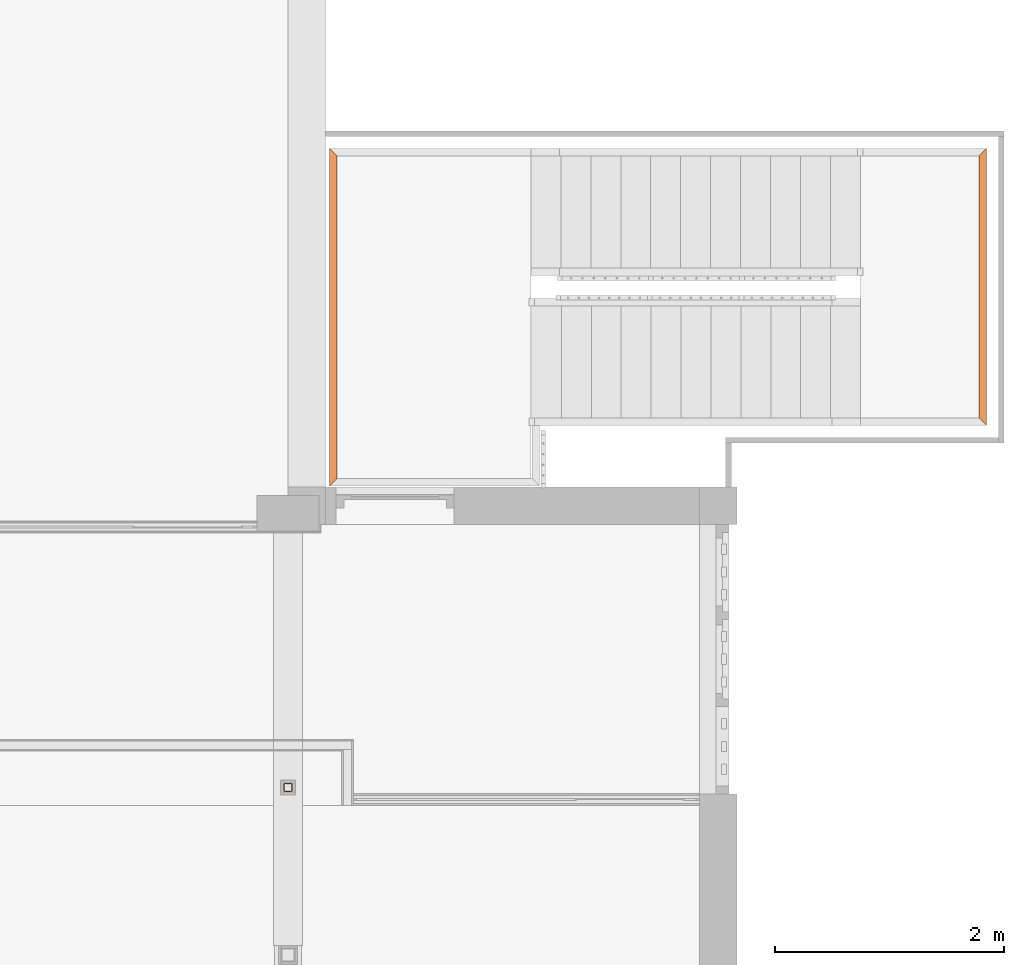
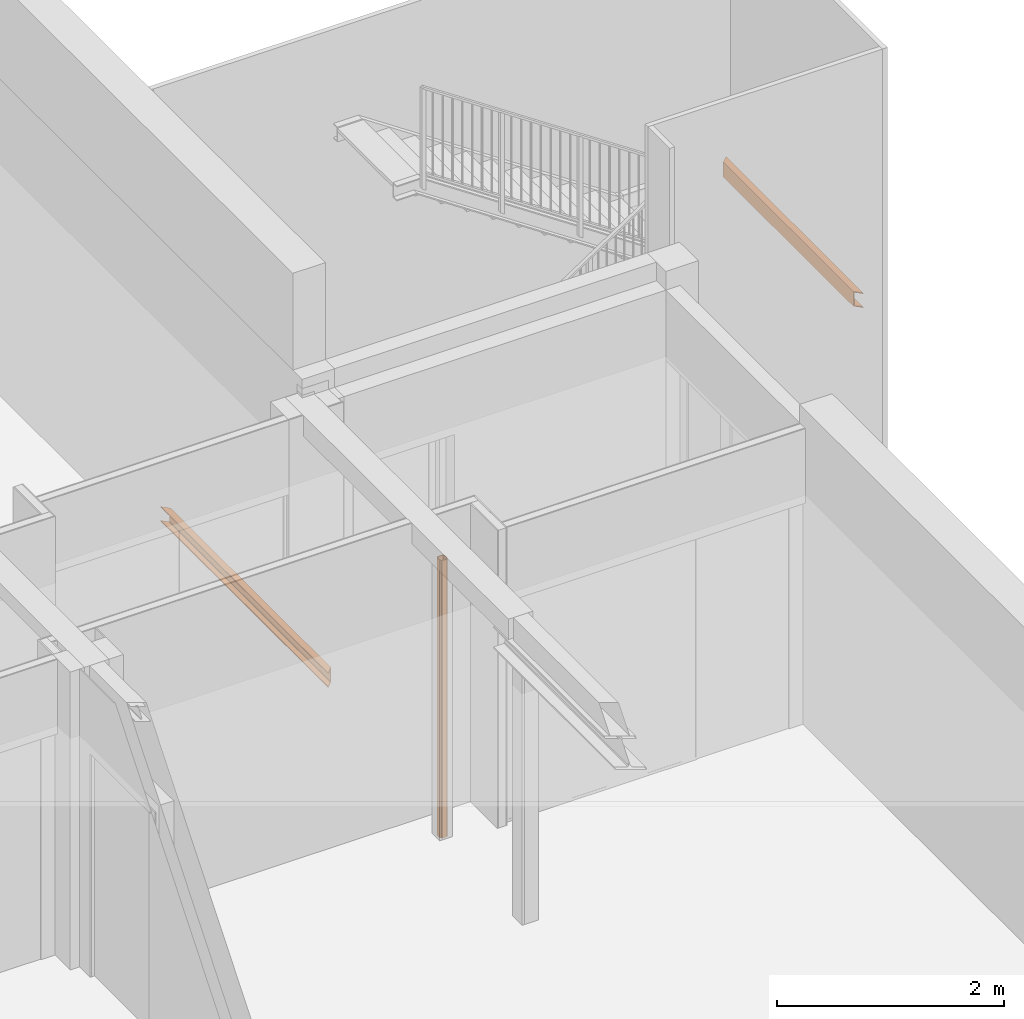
# One storey, part 114 of 117: 3 proxies.
"""IFC2X3 building model written with IfcOpenShell, lengths in millimetres."""

import ifcopenshell
import ifcopenshell.guid

model = None  # the IFC model being written
_history = None  # IfcOwnerHistory: only IFC2X3 demands one
_inside = {}  # id of a spatial element -> (the spatial element, [elements in it])
_under = {}  # id of a project, library or spatial element -> (it, [spatial elements below it])
_declared = {}  # id of a project -> (the project, [libraries it declares])
_typed = {}  # id of a type object -> (the type object, [elements of that type])
_made_of = {}  # id of a material, layer set ... -> (it, [elements and type objects made of it])


def new_model(schema):
    """Start an empty IFC model of exactly this schema.

    Asked for "IFC4X3", IfcOpenShell would pick the latest addendum, in which some entities
    have other attributes; the version numbers below select the first issue.
    IFC2X3 requires an IfcOwnerHistory on every rooted entity: one is made here for all.
    """
    global model, _history
    if schema == "IFC4X3":
        model = ifcopenshell.file(schema_version=(4, 3, 0, 0))
    else:
        model = ifcopenshell.file(schema=schema)
    _inside.clear()
    _under.clear()
    _declared.clear()
    _typed.clear()
    _made_of.clear()
    _history = None
    if model.schema == "IFC2X3":
        org = make("IfcOrganization", Name="unknown")
        user = make(
            "IfcPersonAndOrganization",
            ThePerson=make("IfcPerson", FamilyName="unknown"),
            TheOrganization=org,
        )
        app = make(
            "IfcApplication",
            ApplicationDeveloper=org,
            Version="unknown",
            ApplicationFullName="unknown",
            ApplicationIdentifier="unknown",
        )
        _history = make(
            "IfcOwnerHistory",
            OwningUser=user,
            OwningApplication=app,
            ChangeAction="ADDED",
            CreationDate=0,
        )
    return model


def make(cls, **values):
    """One entity of the class cls with the attributes given. An attribute that is None is left unset."""
    return model.create_entity(
        cls, **{name: value for name, value in values.items() if value is not None}
    )


def entity(cls, *values):
    """Any entity or typed value of the class cls, its attributes in the order of the schema. None: left unset."""
    e = model.create_entity(cls)
    for i, value in enumerate(values):
        if value is not None:
            e[i] = value
    return e


def rooted(cls, **values):
    """An entity with a GlobalId (a new one), such as an element, a storey or a relation."""
    return make(cls, GlobalId=ifcopenshell.guid.new(), OwnerHistory=_history, **values)


def si_unit(unit_type, name, prefix=None):
    """IfcSIUnit, for example si_unit("LENGTHUNIT", "METRE", prefix="MILLI")."""
    return make("IfcSIUnit", UnitType=unit_type, Prefix=prefix, Name=name)


def converted_unit(unit_type, name, factor, base, dimensions=None, offset=None):
    """IfcConversionBasedUnit, such as the inch: factor (a typed value) times the base unit."""
    return make(
        "IfcConversionBasedUnit"
        if offset is None
        else "IfcConversionBasedUnitWithOffset",
        ConversionOffset=offset,
        Dimensions=None
        if dimensions is None
        else entity("IfcDimensionalExponents", *dimensions),
        UnitType=unit_type,
        Name=name,
        ConversionFactor=make(
            "IfcMeasureWithUnit", ValueComponent=factor, UnitComponent=base
        ),
    )


def derived_unit(unit_type, elements):
    """IfcDerivedUnit: a product of units, each with its exponent."""
    return make(
        "IfcDerivedUnit",
        Elements=[
            make("IfcDerivedUnitElement", Unit=unit, Exponent=power)
            for unit, power in elements
        ],
        UnitType=unit_type,
    )


def money_unit(currency):
    """IfcMonetaryUnit."""
    return make("IfcMonetaryUnit", Currency=currency)


def assignment(units):
    """IfcUnitAssignment: the units of a project."""
    return None if units is None else make("IfcUnitAssignment", Units=units)


def point(xyz):
    """IfcCartesianPoint."""
    return None if xyz is None else make("IfcCartesianPoint", Coordinates=xyz)


def direction(xyz):
    """IfcDirection."""
    return None if xyz is None else make("IfcDirection", DirectionRatios=xyz)


def frame(location, z_axis=None, x_axis=None):
    """IfcAxis2Placement3D, a coordinate frame: its origin and axes. An axis left out is left unset."""
    return make(
        "IfcAxis2Placement3D",
        Location=point(location),
        Axis=direction(z_axis),
        RefDirection=direction(x_axis),
    )


def origin_with_axes():
    """The frame at (0, 0, 0) with the z axis (0, 0, 1) and the x axis (1, 0, 0) written out."""
    return frame((0.0, 0.0, 0.0), z_axis=(0.0, 0.0, 1.0), x_axis=(1.0, 0.0, 0.0))


def place(relative_to, where):
    """IfcLocalPlacement: puts the frame where relative to a parent placement (None: the world)."""
    return make(
        "IfcLocalPlacement", PlacementRelTo=relative_to, RelativePlacement=where
    )


def context(
    kind, dimensions, precision=None, world=None, true_north=None, identifier=None
):
    """IfcGeometricRepresentationContext, for example the 3D "Model" context."""
    return make(
        "IfcGeometricRepresentationContext",
        ContextIdentifier=identifier,
        ContextType=kind,
        CoordinateSpaceDimension=dimensions,
        Precision=precision,
        WorldCoordinateSystem=world,
        TrueNorth=true_north,
    )


def subcontext(parent, identifier, kind, view, scale=None):
    """IfcGeometricRepresentationSubContext, for example "Body" below "Model"."""
    return make(
        "IfcGeometricRepresentationSubContext",
        ContextIdentifier=identifier,
        ContextType=kind,
        ParentContext=parent,
        TargetScale=scale,
        TargetView=view,
    )


def project(units=None, contexts=None):
    """IfcProject with its units and contexts."""
    return rooted(
        "IfcProject",
        Name="project",
        RepresentationContexts=contexts,
        UnitsInContext=assignment(units),
    )


def spatial(cls, under=None, at=None, **own):
    """A site, building, storey or space (cls), placed at a placement, below another one or the project."""
    s = rooted(cls, ObjectPlacement=at, **own)
    if under is not None:
        _under.setdefault(under.id(), (under, []))[1].append(s)
    return s


def faces_of(points, faces, orient=None, outer=None):
    """IfcFace entities. A face is a list of loops; a loop is a list of indices into points, from 0.

    orient and outer hold one flag for each loop. By default every Orientation is true, the
    first loop of a face is its IfcFaceOuterBound and the others are IfcFaceBound.
    """
    made = []
    for i, loops in enumerate(faces):
        bounds = []
        for j, loop in enumerate(loops):
            is_outer = j == 0 if outer is None else outer[i][j]
            bounds.append(
                make(
                    "IfcFaceOuterBound" if is_outer else "IfcFaceBound",
                    Bound=make("IfcPolyLoop", Polygon=[points[k] for k in loop]),
                    Orientation=True if orient is None else orient[i][j],
                )
            )
        made.append(make("IfcFace", Bounds=bounds))
    return made


def faceted_brep(points, faces, orient=None, outer=None, voids=None):
    """IfcFacetedBrep: a solid bounded by flat faces; with voids (closed shells), ...WithVoids."""
    shared = [point(p) for p in points]
    hull = make("IfcClosedShell", CfsFaces=faces_of(shared, faces, orient, outer))
    if voids is None:
        return make("IfcFacetedBrep", Outer=hull)
    return make(
        "IfcFacetedBrepWithVoids",
        Outer=hull,
        Voids=[
            make(cls, CfsFaces=faces_of(shared, fs, o, b)) for cls, fs, o, b in voids
        ],
    )


def shape(context_of_items, identifier, shape_type, items):
    """IfcShapeRepresentation: the items that make up one representation, for example the "Body"."""
    return make(
        "IfcShapeRepresentation",
        ContextOfItems=context_of_items,
        RepresentationIdentifier=identifier,
        RepresentationType=shape_type,
        Items=items,
    )


def material(Name=None, Category=None):
    """IfcMaterial."""
    return make("IfcMaterial", Name=Name, Category=Category)


def made_of(thing, what):
    """Note that an element or type object is made of a material, layer set ...; save() writes the relation."""
    if what is not None:
        _made_of.setdefault(what.id(), (what, []))[1].append(thing)
    return thing


def type_object(cls, material=None, **own):
    """A type object (cls), such as IfcWallType, which elements share."""
    return made_of(rooted(cls, **own), material)


def element(
    cls,
    number,
    at=None,
    inside=None,
    cuts=None,
    type_object=None,
    material=None,
    context=None,
    identifier="Body",
    shape_type=None,
    held_by="IfcProductDefinitionShape",
    body=None,
    shapes=None,
    **own,
):
    """One element of the class cls, such as IfcWall. Its Tag is "e" and its number.

    at: its placement. inside: the storey or other place that contains it. cuts: it is an
    opening in that element (IfcRelVoidsElement). A single representation is given by context,
    identifier, shape_type and body (its items); several are given by shapes. held_by: the class
    of the entity that holds the representations. save() writes the other relations.
    """
    e = rooted(cls, Tag="e%d" % number, ObjectPlacement=at, **own)
    if body is not None:
        shapes = [shape(context, identifier, shape_type, body)]
    if shapes is not None:
        e.Representation = make(held_by, Representations=shapes)
    if inside is not None:
        _inside.setdefault(inside.id(), (inside, []))[1].append(e)
    if cuts is not None:
        rooted(
            "IfcRelVoidsElement", RelatingBuildingElement=cuts, RelatedOpeningElement=e
        )
    if type_object is not None:
        _typed.setdefault(type_object.id(), (type_object, []))[1].append(e)
    return made_of(e, material)


def aggregate(whole, parts):
    """IfcRelAggregates: a whole, such as a stair, and the parts it consists of."""
    return rooted("IfcRelAggregates", RelatingObject=whole, RelatedObjects=parts)


def save(model, path):
    """Write the relations noted so far, then the file.

    IfcRelAggregates (storeys below a building ...), IfcRelContainedInSpatialStructure (elements
    in a storey), IfcRelDefinesByType, IfcRelAssociatesMaterial and IfcRelDeclares: one each for
    every whole, place, type object, material and project.
    """
    for whole, parts in _under.values():
        aggregate(whole, parts)
    for where, things in _inside.values():
        rooted(
            "IfcRelContainedInSpatialStructure",
            RelatedElements=things,
            RelatingStructure=where,
        )
    for kind, things in _typed.values():
        rooted("IfcRelDefinesByType", RelatedObjects=things, RelatingType=kind)
    for what, things in _made_of.values():
        rooted("IfcRelAssociatesMaterial", RelatedObjects=things, RelatingMaterial=what)
    for by, libraries in _declared.values():
        rooted("IfcRelDeclares", RelatingContext=by, RelatedDefinitions=libraries)
    model.write(path)


model = new_model("IFC2X3")

# Units and contexts
model_context = context("Model", 3, precision=0.01, world=origin_with_axes(), true_north=direction((0.0, 1.0)))
body_context = subcontext(model_context, "Body", "Model", "MODEL_VIEW")
ifc_project = project(units=[si_unit("LENGTHUNIT", "METRE", prefix="MILLI"), si_unit("AREAUNIT", "SQUARE_METRE"), si_unit("VOLUMEUNIT", "CUBIC_METRE"), converted_unit("PLANEANGLEUNIT", "DEGREE", entity("IfcPlaneAngleMeasure", 0.0174532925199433), si_unit("PLANEANGLEUNIT", "RADIAN"), dimensions=[0, 0, 0, 0, 0, 0, 0]), money_unit("EUR"), converted_unit("TIMEUNIT", "Year", entity("IfcTimeMeasure", 31557600.0), si_unit("TIMEUNIT", "SECOND"), dimensions=[0, 0, 1, 0, 0, 0, 0]), si_unit("MASSUNIT", "GRAM", prefix="KILO"), si_unit("THERMODYNAMICTEMPERATUREUNIT", "DEGREE_CELSIUS"), si_unit("LUMINOUSINTENSITYUNIT", "LUMEN"), si_unit("ENERGYUNIT", "JOULE", prefix="MEGA"), derived_unit("THERMALCONDUCTANCEUNIT", [(si_unit("POWERUNIT", "WATT"), 1), (si_unit("LENGTHUNIT", "METRE"), -1), (si_unit("THERMODYNAMICTEMPERATUREUNIT", "KELVIN"), -1)]), derived_unit("SPECIFICHEATCAPACITYUNIT", [(si_unit("ENERGYUNIT", "JOULE"), 1), (si_unit("MASSUNIT", "GRAM", prefix="KILO"), -1), (si_unit("THERMODYNAMICTEMPERATUREUNIT", "KELVIN"), -1)]), derived_unit("MASSDENSITYUNIT", [(si_unit("MASSUNIT", "GRAM", prefix="KILO"), 1), (si_unit("VOLUMEUNIT", "CUBIC_METRE"), -1)])], contexts=[model_context])

# Site, building, storey
site_placement = place(None, origin_with_axes())
site = spatial("IfcSite", under=ifc_project, at=site_placement, Name="Site", CompositionType="ELEMENT")
building_placement = place(site_placement, origin_with_axes())
building = spatial("IfcBuilding", under=site, at=building_placement, Name="Naam gebouw", CompositionType="ELEMENT")
storey_placement = place(building_placement, frame((0.0, 0.0, 4150.0), z_axis=(0.0, 0.0, 1.0), x_axis=(1.0, 0.0, 0.0)))
storey = spatial("IfcBuildingStorey", under=building, at=storey_placement, Name="1e verdieping N", CompositionType="ELEMENT", Elevation=4150.0)

# Proxies
ifc_material = material(Name="Metaal - Staal AFW")
building_element_proxy_type_1 = type_object("IfcBuildingElementProxyType", Name="Buis vk warmgew kolom 27", PredefinedType="NOTDEFINED")
proxy_1_placement = place(storey_placement, frame((54000.0, 18025.91242510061, 0.0), z_axis=(0.0, 0.0, 1.0), x_axis=(0.0, -1.0, 0.0)))
element("IfcBuildingElementProxy", 1, at=proxy_1_placement, inside=storey, type_object=building_element_proxy_type_1, material=ifc_material, Name="_Boom-x", context=body_context, shape_type="Brep", body=[
    faceted_brep([(24.0, -40.0, 0.0), (24.0, -40.0, 2980.0), (-24.0, -40.0, 2980.0), (-24.0, -40.0, 0.0), (35.31370849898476, -35.31370849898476, 0.0), (35.31370849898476, -35.31370849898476, 2980.0), (40.0, -24.0, 2980.0), (40.00000000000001, 24.0, 2980.0), (35.31370849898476, 35.31370849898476, 2980.0), (24.0, 40.0, 2980.0), (-24.0, 40.00000000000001, 2980.0), (-35.31370849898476, 35.31370849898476, 2980.0), (-40.0, 24.0, 2980.0), (-40.0, -24.0, 2980.0), (-35.31370849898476, -35.31370849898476, 2980.0), (24.0, -32.0, 2980.0), (-24.0, -32.0, 2980.0), (-29.65685424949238, -29.65685424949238, 2980.0), (-32.0, -24.0, 2980.0), (-32.0, 24.0, 2980.0), (-29.65685424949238, 29.65685424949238, 2980.0), (-24.0, 32.0, 2980.0), (24.0, 32.0, 2980.0), (29.65685424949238, 29.65685424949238, 2980.0), (32.0, 24.0, 2980.0), (32.0, -24.0, 2980.0), (29.65685424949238, -29.65685424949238, 2980.0), (-35.31370849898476, -35.31370849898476, 0.0), (-40.0, -24.0, 0.0), (-40.0, 24.0, 0.0), (-35.31370849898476, 35.31370849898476, 0.0), (-24.0, 40.00000000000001, 0.0), (24.0, 40.0, 0.0), (35.31370849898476, 35.31370849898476, 0.0), (40.00000000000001, 24.0, 0.0), (40.0, -24.0, 0.0), (24.0, -32.0, 0.0), (29.65685424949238, -29.65685424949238, 0.0), (32.0, -24.0, 0.0), (32.0, 24.0, 0.0), (29.65685424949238, 29.65685424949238, 0.0), (24.0, 32.0, 0.0), (-24.0, 32.0, 0.0), (-29.65685424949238, 29.65685424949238, 0.0), (-32.0, 24.0, 0.0), (-32.0, -24.0, 0.0), (-29.65685424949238, -29.65685424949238, 0.0), (-24.0, -32.0, 0.0)], [[[0, 1, 2, 3]], [[4, 5, 1, 0]], [[1, 5, 6, 7, 8, 9, 10, 11, 12, 13, 14, 2], [15, 16, 17, 18, 19, 20, 21, 22, 23, 24, 25, 26]], [[3, 2, 14, 27]], [[0, 3, 27, 28, 29, 30, 31, 32, 33, 34, 35, 4], [36, 37, 38, 39, 40, 41, 42, 43, 44, 45, 46, 47]], [[35, 6, 5, 4]], [[34, 7, 6, 35]], [[33, 8, 7, 34]], [[32, 9, 8, 33]], [[31, 10, 9, 32]], [[30, 11, 10, 31]], [[29, 12, 11, 30]], [[28, 13, 12, 29]], [[27, 14, 13, 28]], [[47, 16, 15, 36]], [[46, 17, 16, 47]], [[45, 18, 17, 46]], [[44, 19, 18, 45]], [[43, 20, 19, 44]], [[42, 21, 20, 43]], [[41, 22, 21, 42]], [[40, 23, 22, 41]], [[39, 24, 23, 40]], [[38, 25, 24, 39]], [[37, 26, 25, 38]], [[36, 15, 26, 37]]]),
])
building_element_proxy_type_2 = type_object("IfcBuildingElementProxyType", Name="UPN balk 27", PredefinedType="NOTDEFINED")
proxy_2_placement = place(storey_placement, frame((60077.49999999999, 23583.4124251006, 1602.772280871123), z_axis=(0.0, 0.0, 1.0), x_axis=(0.0, -1.0, 0.0)))
element("IfcBuildingElementProxy", 2, at=proxy_2_placement, inside=storey, type_object=building_element_proxy_type_2, material=ifc_material, Name="_Boom-x", context=body_context, shape_type="Brep", body=[
    faceted_brep([(2322.499999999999, -32.50000000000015, 160.0000000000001), (2354.999999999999, 0.0, 160.0000000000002), (2387.499999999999, 32.49999999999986, 160.0000000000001), (-32.49999999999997, 32.5, 160.0), (32.49999999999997, -32.5, 160.0), (2354.999999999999, 0.0, 10.50000000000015), (2340.499999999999, -14.50000000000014, 10.50000000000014), (2335.249999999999, -19.75000000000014, 11.90673326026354), (2331.406733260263, -23.59326673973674, 15.75000000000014), (2329.999999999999, -25.00000000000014, 21.00000000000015), (2329.999999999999, -25.00000000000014, 139.0000000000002), (2331.406733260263, -23.59326673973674, 144.2500000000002), (2335.249999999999, -19.75000000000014, 148.0932667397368), (2340.499999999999, -14.50000000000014, 149.5000000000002), (2354.999999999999, 0.0, 149.5000000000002), (2381.999999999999, 26.99999999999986, 149.5000000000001), (2384.75, 29.74999999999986, 150.2368602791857), (2386.763139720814, 31.76313972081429, 152.2500000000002), (2387.499999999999, 32.49999999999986, 155.0000000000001), (2322.499999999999, -32.50000000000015, 0.0), (2354.999999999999, 0.0, 0.0), (2387.499999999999, 32.49999999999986, 0.0), (2387.499999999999, 32.49999999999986, 5.000000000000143), (2386.763139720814, 31.76313972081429, 7.750000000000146), (2384.75, 29.74999999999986, 9.76313972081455), (2381.999999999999, 26.99999999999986, 10.50000000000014), (-32.49999999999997, 32.5, 155.0), (-31.76313972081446, 31.76313972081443, 152.25), (-29.74999999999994, 29.75000000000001, 150.2368602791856), (-26.99999999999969, 27.00000000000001, 149.5), (14.49999999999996, -14.5, 149.5), (19.74999999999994, -19.75, 148.0932667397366), (23.59326673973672, -23.59326673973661, 144.2500000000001), (25.00000000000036, -25.0, 139.0), (25.00000000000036, -25.0, 21.0), (23.59326673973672, -23.59326673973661, 15.75), (19.74999999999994, -19.75, 11.9067332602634), (14.49999999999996, -14.5, 10.49999999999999), (-26.99999999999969, 27.00000000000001, 10.49999999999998), (-29.74999999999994, 29.75000000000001, 9.763139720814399), (-31.76313972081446, 31.76313972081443, 7.749999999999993), (-32.49999999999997, 32.5, 4.999999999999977), (-32.49999999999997, 32.5, 0.0), (32.49999999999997, -32.5, 0.0)], [[[0, 1, 2, 3, 4]], [[5, 6, 7, 8, 9, 10, 11, 12, 13, 14, 15, 16, 17, 18, 2, 1, 0, 19, 20, 21, 22, 23, 24, 25]], [[18, 26, 3, 2]], [[4, 3, 26, 27, 28, 29, 30, 31, 32, 33, 34, 35, 36, 37, 38, 39, 40, 41, 42, 43]], [[19, 0, 4, 43]], [[6, 5, 25, 38, 37]], [[7, 6, 37, 36]], [[8, 7, 36, 35]], [[9, 8, 35, 34]], [[10, 9, 34, 33]], [[11, 10, 33, 32]], [[12, 11, 32, 31]], [[13, 12, 31, 30]], [[14, 13, 30, 29, 15]], [[15, 29, 28, 16]], [[16, 28, 27, 17]], [[17, 27, 26, 18]], [[20, 19, 43, 42, 21]], [[21, 42, 41, 22]], [[22, 41, 40, 23]], [[23, 40, 39, 24]], [[24, 39, 38, 25]]]),
])
proxy_3_placement = place(storey_placement, frame((54397.49999999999, 20698.4124251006, -147.3000000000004), z_axis=(0.0, 0.0, 1.0), x_axis=(0.0, 1.0, 0.0)))
element("IfcBuildingElementProxy", 3, at=proxy_3_placement, inside=storey, type_object=building_element_proxy_type_2, material=ifc_material, Name="_Boom-x", context=body_context, shape_type="Brep", body=[
    faceted_brep([(2852.5, -32.50000000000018, 160.0000000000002), (2885.0, 0.0, 160.0000000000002), (2917.5, 32.49999999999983, 160.0000000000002), (-32.49999999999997, 32.5, 160.0), (32.49999999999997, -32.5, 160.0), (2885.0, 0.0, 10.50000000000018), (2870.5, -14.50000000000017, 10.50000000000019), (2865.25, -19.75000000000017, 11.90673326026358), (2861.406733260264, -23.59326673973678, 15.75000000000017), (2860.0, -25.00000000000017, 21.00000000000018), (2860.0, -25.00000000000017, 139.0000000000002), (2861.406733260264, -23.59326673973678, 144.2500000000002), (2865.25, -19.75000000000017, 148.0932667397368), (2870.5, -14.50000000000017, 149.5000000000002), (2885.0, 0.0, 149.5000000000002), (2912.0, 26.99999999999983, 149.5000000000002), (2914.75, 29.74999999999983, 150.2368602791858), (2916.763139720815, 31.76313972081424, 152.2500000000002), (2917.5, 32.49999999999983, 155.0000000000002), (2852.5, -32.50000000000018, 0.0), (2885.0, 0.0, 0.0), (2917.5, 32.49999999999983, 0.0), (2917.5, 32.49999999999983, 5.000000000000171), (2916.763139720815, 31.76313972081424, 7.750000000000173), (2914.75, 29.74999999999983, 9.763139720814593), (2912.0, 26.99999999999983, 10.50000000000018), (-32.49999999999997, 32.5, 155.0), (-31.76313972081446, 31.76313972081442, 152.25), (-29.74999999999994, 29.75000000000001, 150.2368602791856), (-26.99999999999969, 27.00000000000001, 149.5), (14.49999999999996, -14.5, 149.5), (19.74999999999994, -19.75, 148.0932667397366), (23.59326673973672, -23.59326673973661, 144.2500000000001), (25.00000000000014, -25.0, 139.0), (25.00000000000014, -25.0, 21.0), (23.59326673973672, -23.59326673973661, 15.75), (19.74999999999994, -19.75, 11.9067332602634), (14.49999999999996, -14.5, 10.50000000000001), (-26.99999999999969, 27.00000000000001, 10.49999999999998), (-29.74999999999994, 29.75000000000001, 9.763139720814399), (-31.76313972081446, 31.76313972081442, 7.749999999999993), (-32.49999999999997, 32.5, 4.999999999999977), (-32.49999999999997, 32.5, 0.0), (32.49999999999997, -32.5, 0.0)], [[[0, 1, 2, 3, 4]], [[5, 6, 7, 8, 9, 10, 11, 12, 13, 14, 15, 16, 17, 18, 2, 1, 0, 19, 20, 21, 22, 23, 24, 25]], [[18, 26, 3, 2]], [[4, 3, 26, 27, 28, 29, 30, 31, 32, 33, 34, 35, 36, 37, 38, 39, 40, 41, 42, 43]], [[19, 0, 4, 43]], [[6, 5, 25, 38, 37]], [[7, 6, 37, 36]], [[8, 7, 36, 35]], [[9, 8, 35, 34]], [[10, 9, 34, 33]], [[11, 10, 33, 32]], [[12, 11, 32, 31]], [[13, 12, 31, 30]], [[14, 13, 30, 29, 15]], [[15, 29, 28, 16]], [[16, 28, 27, 17]], [[17, 27, 26, 18]], [[20, 19, 43, 42, 21]], [[21, 42, 41, 22]], [[22, 41, 40, 23]], [[23, 40, 39, 24]], [[24, 39, 38, 25]]]),
])

save(model, "model.ifc")
